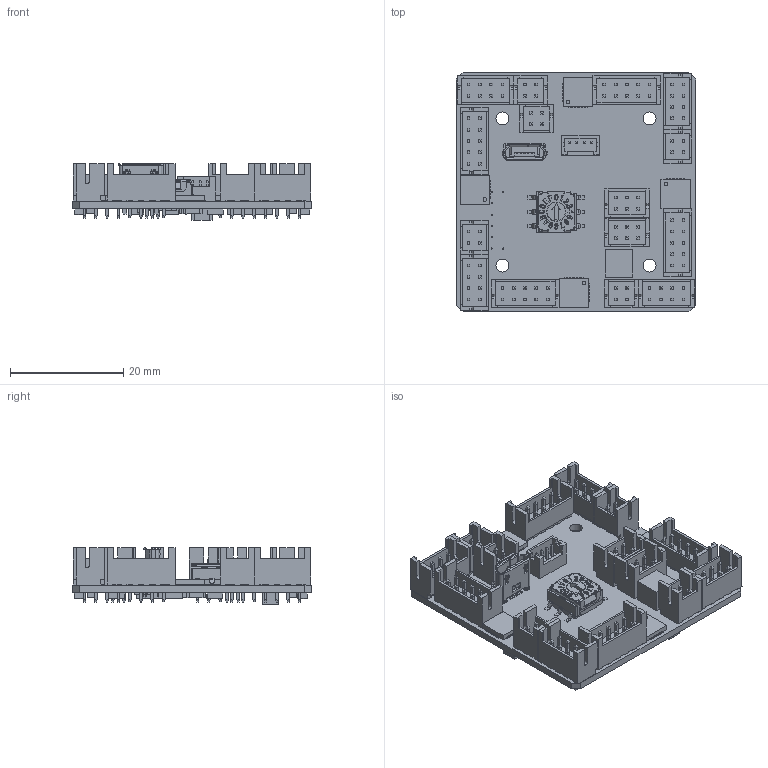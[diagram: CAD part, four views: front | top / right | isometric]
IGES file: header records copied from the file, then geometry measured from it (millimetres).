
Start section: 3D InterOp IGES (v. 2017 1.0.2), Spatial Corp. Copyright (c) 1999-2016.
Global section: file name: EZ4AXIS17XR-ST.igs; native system: Spatial Corp.; preprocessor: 3D InterOp ACIS/IGES; author: wolfgang; organization: TransMagic, Inc.; date: 20170607.102113; units: inch
Bounding box: 42.3 x 42.3 x 10.06 mm (x, y, z)
Surface area: 12230 mm2 (no closed solid volume)
Topology: 0 solids, 0 shells, 6129 faces, 34759 edges, 34745 vertices
Faces by surface type: extrusion 5411, revolution 658, bspline 60
